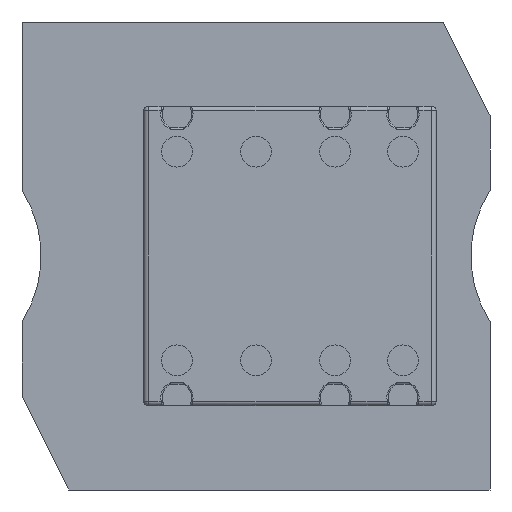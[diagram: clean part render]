
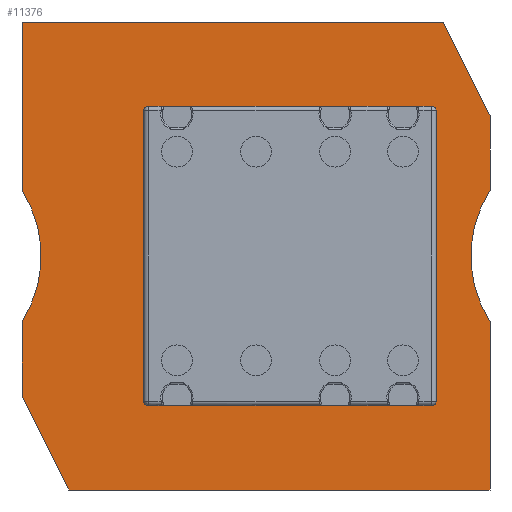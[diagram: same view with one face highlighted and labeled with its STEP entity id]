
A CAD part, front view. The second image highlights one B-rep face of the part: STEP entity #11376.
In plain terms, the highlighted planar face has unit normal (0, -1, 0).
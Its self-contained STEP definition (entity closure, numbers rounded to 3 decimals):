
#56 = EDGE_CURVE ( 'NONE', #17258, #14521, #6413, .T. ) ;
#351 = CARTESIAN_POINT ( 'NONE',  ( 50., 0., -50. ) ) ;
#1192 = CARTESIAN_POINT ( 'NONE',  ( -50., 0., 50. ) ) ;
#1862 = EDGE_CURVE ( 'NONE', #2751, #16962, #6358, .T. ) ;
#2359 = CARTESIAN_POINT ( 'NONE',  ( -50., 0., 50. ) ) ;
#2606 = CARTESIAN_POINT ( 'NONE',  ( -40., 0., -50. ) ) ;
#2751 = VERTEX_POINT ( 'NONE', #351 ) ;
#3005 = VECTOR ( 'NONE', #10375, 1000. ) ;
#3416 = CARTESIAN_POINT ( 'NONE',  ( -50., 0., 50. ) ) ;
#3500 = VECTOR ( 'NONE', #15750, 1000. ) ;
#3670 = ORIENTED_EDGE ( 'NONE', *, *, #4955, .F. ) ;
#3961 = VERTEX_POINT ( 'NONE', #13192 ) ;
#4101 = CARTESIAN_POINT ( 'NONE',  ( -71.909, 0., 0. ) ) ;
#4150 = DIRECTION ( 'NONE',  ( 0., -1., 0. ) ) ;
#4181 = FACE_OUTER_BOUND ( 'NONE', #11155, .T. ) ;
#4576 = VERTEX_POINT ( 'NONE', #13540 ) ;
#4615 = ORIENTED_EDGE ( 'NONE', *, *, #16170, .F. ) ;
#4744 = VECTOR ( 'NONE', #9240, 1000. ) ;
#4793 = DIRECTION ( 'NONE',  ( 0., 0., 1. ) ) ;
#4955 = EDGE_CURVE ( 'NONE', #14521, #3961, #15405, .T. ) ;
#4958 = CARTESIAN_POINT ( 'NONE',  ( -50., 0., -14. ) ) ;
#5071 = CARTESIAN_POINT ( 'NONE',  ( 50., 0., 30. ) ) ;
#5122 = AXIS2_PLACEMENT_3D ( 'NONE', #6905, #16221, #8203 ) ;
#5146 = ORIENTED_EDGE ( 'NONE', *, *, #1862, .F. ) ;
#5158 = LINE ( 'NONE', #2606, #4744 ) ;
#5586 = CARTESIAN_POINT ( 'NONE',  ( -71.909, 0., 0. ) ) ;
#6083 = EDGE_CURVE ( 'NONE', #16962, #17258, #5158, .T. ) ;
#6151 = ORIENTED_EDGE ( 'NONE', *, *, #7729, .F. ) ;
#6358 = LINE ( 'NONE', #8164, #16563 ) ;
#6413 = LINE ( 'NONE', #4958, #16614 ) ;
#6493 = ORIENTED_EDGE ( 'NONE', *, *, #9000, .F. ) ;
#6852 = EDGE_CURVE ( 'NONE', #12648, #4576, #12431, .T. ) ;
#6905 = CARTESIAN_POINT ( 'NONE',  ( 71.909, 0., 0. ) ) ;
#6926 = DIRECTION ( 'NONE',  ( 0., 0., -1. ) ) ;
#7296 = EDGE_CURVE ( 'NONE', #7651, #12648, #10098, .T. ) ;
#7632 = ORIENTED_EDGE ( 'NONE', *, *, #7296, .F. ) ;
#7651 = VERTEX_POINT ( 'NONE', #15170 ) ;
#7729 = EDGE_CURVE ( 'NONE', #3961, #11942, #11058, .T. ) ;
#7926 = VECTOR ( 'NONE', #15473, 1000. ) ;
#8164 = CARTESIAN_POINT ( 'NONE',  ( -40., 0., -50. ) ) ;
#8203 = DIRECTION ( 'NONE',  ( 0., 0., 1. ) ) ;
#8460 = ORIENTED_EDGE ( 'NONE', *, *, #11654, .F. ) ;
#8903 = CARTESIAN_POINT ( 'NONE',  ( 50., 0., -14. ) ) ;
#9000 = EDGE_CURVE ( 'NONE', #11942, #7651, #14166, .T. ) ;
#9240 = DIRECTION ( 'NONE',  ( -0.447, 0., 0.894 ) ) ;
#9281 = VECTOR ( 'NONE', #13065, 1000. ) ;
#9512 = ORIENTED_EDGE ( 'NONE', *, *, #6852, .F. ) ;
#10022 = VERTEX_POINT ( 'NONE', #8903 ) ;
#10083 = CARTESIAN_POINT ( 'NONE',  ( 50., 0., -14. ) ) ;
#10098 = LINE ( 'NONE', #16978, #3005 ) ;
#10375 = DIRECTION ( 'NONE',  ( 0.447, 0., -0.894 ) ) ;
#11058 = LINE ( 'NONE', #3416, #14620 ) ;
#11091 = AXIS2_PLACEMENT_3D ( 'NONE', #4101, #4150, #13493 ) ;
#11155 = EDGE_LOOP ( 'NONE', ( #8460, #4615, #9512, #7632, #6493, #6151, #3670, #16103, #14076, #5146 ) ) ;
#11376 = ADVANCED_FACE ( 'NONE', ( #4181 ), #12089, .T. ) ;
#11654 = EDGE_CURVE ( 'NONE', #10022, #2751, #15031, .T. ) ;
#11942 = VERTEX_POINT ( 'NONE', #1192 ) ;
#12089 = PLANE ( 'NONE',  #11091 ) ;
#12431 = LINE ( 'NONE', #5071, #9281 ) ;
#12588 = CARTESIAN_POINT ( 'NONE',  ( -40., 0., -50. ) ) ;
#12648 = VERTEX_POINT ( 'NONE', #13658 ) ;
#13065 = DIRECTION ( 'NONE',  ( 0., 0., -1. ) ) ;
#13192 = CARTESIAN_POINT ( 'NONE',  ( -50., 0., 14. ) ) ;
#13483 = DIRECTION ( 'NONE',  ( 0., 0., 1. ) ) ;
#13493 = DIRECTION ( 'NONE',  ( 0., 0., -1. ) ) ;
#13540 = CARTESIAN_POINT ( 'NONE',  ( 50., 0., 14. ) ) ;
#13566 = CIRCLE ( 'NONE', #5122, 26. ) ;
#13658 = CARTESIAN_POINT ( 'NONE',  ( 50., 0., 30. ) ) ;
#14076 = ORIENTED_EDGE ( 'NONE', *, *, #6083, .F. ) ;
#14106 = CARTESIAN_POINT ( 'NONE',  ( -50., 0., -14. ) ) ;
#14166 = LINE ( 'NONE', #2359, #3500 ) ;
#14521 = VERTEX_POINT ( 'NONE', #14106 ) ;
#14620 = VECTOR ( 'NONE', #4793, 1000. ) ;
#14889 = DIRECTION ( 'NONE',  ( 0., -1., 0. ) ) ;
#15031 = LINE ( 'NONE', #10083, #7926 ) ;
#15170 = CARTESIAN_POINT ( 'NONE',  ( 40., 0., 50. ) ) ;
#15405 = CIRCLE ( 'NONE', #16441, 26. ) ;
#15473 = DIRECTION ( 'NONE',  ( 0., 0., -1. ) ) ;
#15750 = DIRECTION ( 'NONE',  ( 1., 0., 0. ) ) ;
#16103 = ORIENTED_EDGE ( 'NONE', *, *, #56, .F. ) ;
#16170 = EDGE_CURVE ( 'NONE', #4576, #10022, #13566, .T. ) ;
#16176 = CARTESIAN_POINT ( 'NONE',  ( -50., 0., -30. ) ) ;
#16221 = DIRECTION ( 'NONE',  ( 0., -1., 0. ) ) ;
#16441 = AXIS2_PLACEMENT_3D ( 'NONE', #5586, #14889, #6926 ) ;
#16562 = DIRECTION ( 'NONE',  ( -1., 0., 0. ) ) ;
#16563 = VECTOR ( 'NONE', #16562, 1000. ) ;
#16614 = VECTOR ( 'NONE', #13483, 1000. ) ;
#16962 = VERTEX_POINT ( 'NONE', #12588 ) ;
#16978 = CARTESIAN_POINT ( 'NONE',  ( 40., 0., 50. ) ) ;
#17258 = VERTEX_POINT ( 'NONE', #16176 ) ;
